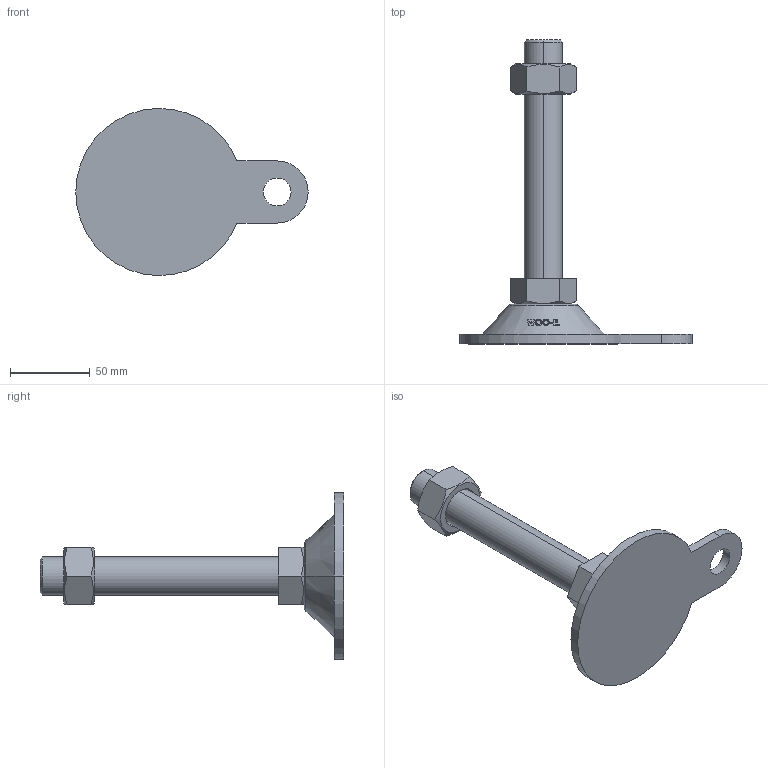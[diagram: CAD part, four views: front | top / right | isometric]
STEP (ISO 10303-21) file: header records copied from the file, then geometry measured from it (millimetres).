
FILE_DESCRIPTION (( 'STEP AP214' ), '1' );
FILE_NAME ('ABL105-M24-150.step', '2021-02-05T04:17:18', ( '' ), ( '' ), 'SwSTEP 2.0', 'SolidWorks 2019', '' );
FILE_SCHEMA (( 'AUTOMOTIVE_DESIGN' ));
Length unit declared in the file: millimetre
Products named in the file (2): ABL105-M24-150
Bounding box: 146 x 191 x 104.98 mm (x, y, z)
Volume: 211966.7 mm3; surface area: 42567.2 mm2
Topology: 2 solids, 2 shells, 128 faces, 329 edges, 216 vertices
Faces by surface type: plane 48, cylinder 38, cone 22, bspline 18, torus 2
Entity records: 5501 total; most frequent: CARTESIAN_POINT 2595, ORIENTED_EDGE 658, DIRECTION 473, EDGE_CURVE 329, VERTEX_POINT 216, AXIS2_PLACEMENT_3D 176, B_SPLINE_CURVE_WITH_KNOTS 144, EDGE_LOOP 143
